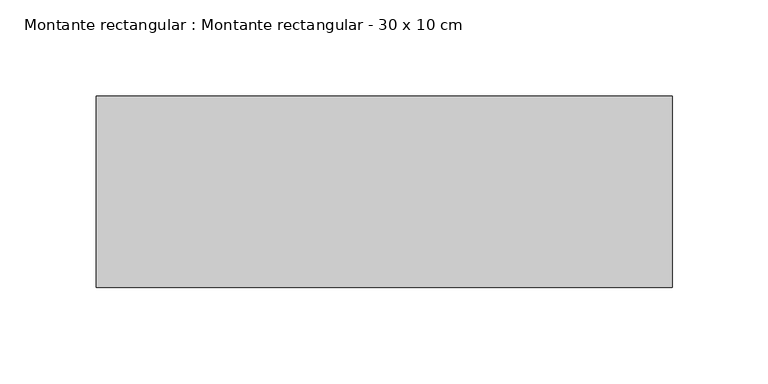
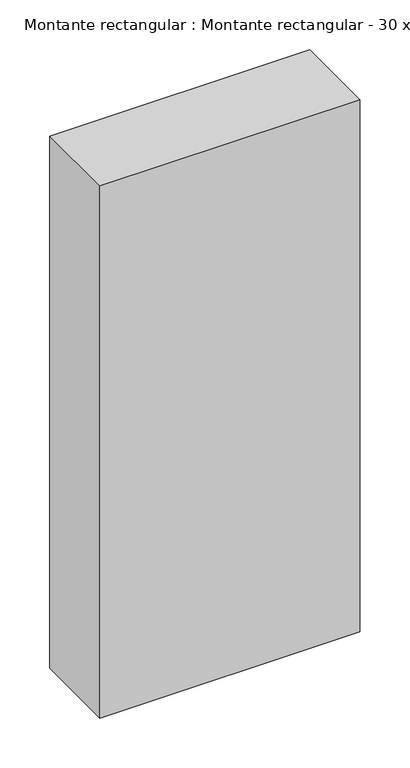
"""IFC4 building model written with IfcOpenShell, lengths in millimetres: member geometry, Montante rectangular : Montante rectangular - 30 x 10 cm."""

from ifc_helpers import new_model, si_unit, frame, origin, place, context, project, spatial, polyline, outline, extrude, source, transform, mapped, element, save


def montante_rectangular_montante_rectangular_30_x_10_cm_1575974a(model_context):
    return source(origin(), model_context, "Body", "SweptSolid", [
        extrude(outline(polyline([(-300.0, 50.0), (0.0, 50.0), (0.0, -50.0), (-300.0, -50.0), (-300.0, 50.0)])), frame((0.0, 0.0, -650.0), z_axis=(0.0, 0.0, 1.0), x_axis=(1.0, 0.0, 0.0)), (0.0, 0.0, 1.0), 650.0),
    ])


if __name__ == "__main__":
    model = new_model("IFC4")
    model_context = context("Model", 3, world=origin())
    ifc_project = project(units=[si_unit("LENGTHUNIT", "METRE", prefix="MILLI")], contexts=[model_context])
    site = spatial("IfcSite", under=ifc_project)
    building = spatial("IfcBuilding", under=site)
    placement = place(None, origin())
    montante_rectangular_montante_rectangular_30_x_10_cm_shape = montante_rectangular_montante_rectangular_30_x_10_cm_1575974a(model_context)
    element("IfcMember", 1, ObjectType="Montante rectangular : Montante rectangular - 30 x 10 cm", at=placement, inside=building, context=model_context, shape_type="MappedRepresentation", body=[
        mapped(montante_rectangular_montante_rectangular_30_x_10_cm_shape, transform((0.0, 0.0, 0.0), x_axis=(1.0, 0.0, 0.0), y_axis=(0.0, 1.0, 0.0), z_axis=(0.0, 0.0, 1.0))),
    ])
    save(model, "model.ifc")
